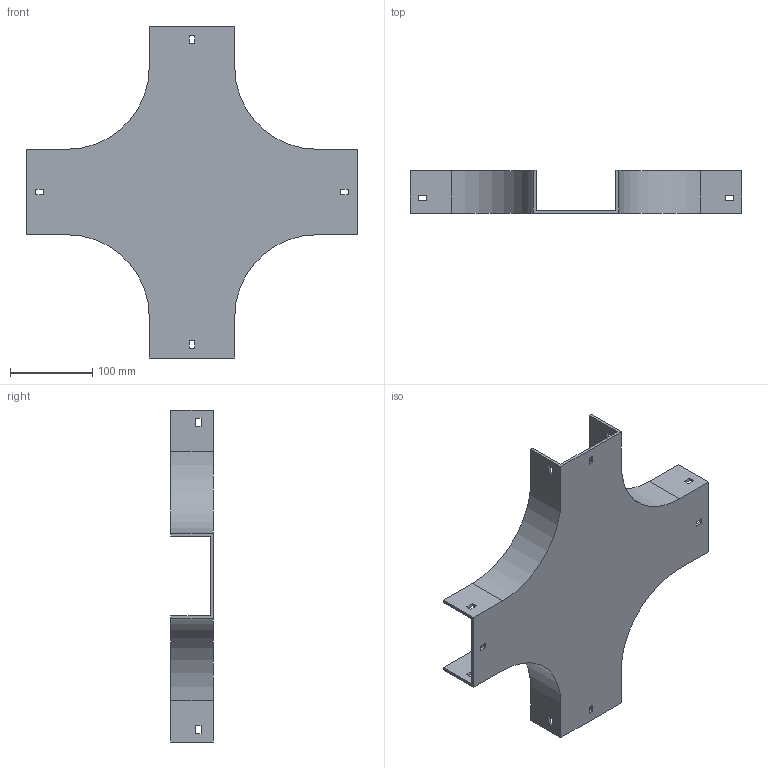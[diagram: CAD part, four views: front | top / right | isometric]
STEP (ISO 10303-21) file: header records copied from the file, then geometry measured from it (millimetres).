
FILE_DESCRIPTION (( 'STEP AP214' ), '1' );
FILE_NAME ('17B1B100.step', '2025-02-21T09:57:04', ( '' ), ( '' ), 'SwSTEP 2.0', 'SolidWorks 2023', '' );
FILE_SCHEMA (( 'AUTOMOTIVE_DESIGN' ));
Length unit declared in the file: millimetre
Products named in the file (1): 17B1B100
Bounding box: 404 x 52 x 404 mm (x, y, z)
Volume: 459944.8 mm3; surface area: 270624.7 mm2
Topology: 1 solids, 1 shells, 82 faces, 240 edges, 160 vertices
Faces by surface type: plane 74, cylinder 8
Entity records: 2751 total; most frequent: CARTESIAN_POINT 483, ORIENTED_EDGE 480, DIRECTION 422, EDGE_CURVE 240, LINE 224, VECTOR 224, VERTEX_POINT 160, EDGE_LOOP 106
